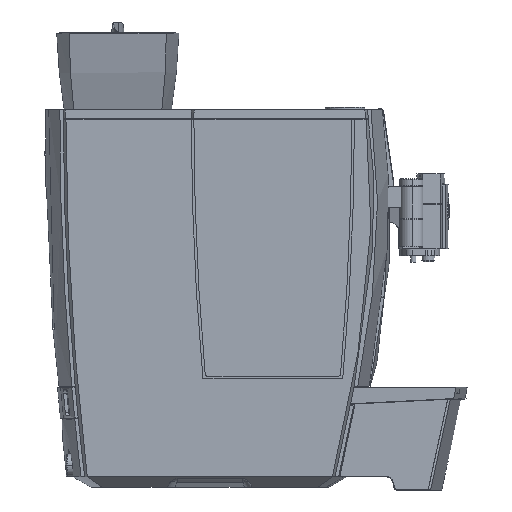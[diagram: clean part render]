
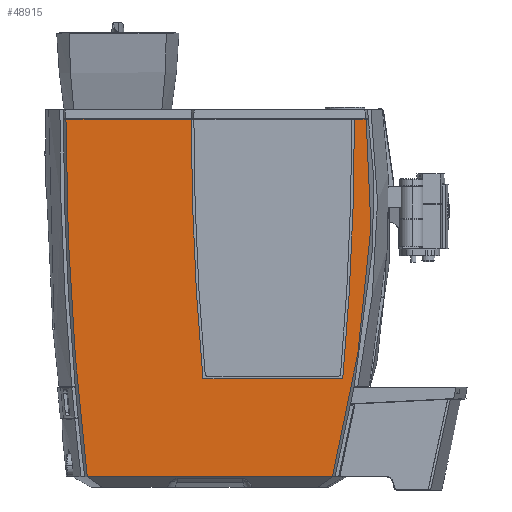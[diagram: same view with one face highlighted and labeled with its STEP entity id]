
A CAD part, left-side view. The second image highlights one B-rep face of the part: STEP entity #48915.
In plain terms, the highlighted planar face has unit normal (-1, 0, 0).
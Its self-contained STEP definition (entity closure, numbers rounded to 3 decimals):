
#1477 = B_SPLINE_CURVE_WITH_KNOTS ( 'NONE', 3,
 ( #59600, #65113, #10396, #48761, #15877, #54294, #21390, #59837, #26902, #65346, #32478, #70880, #37965, #5094, #43510, #10639, #48985, #16105, #54546, #21631, #60072, #27146, #65587, #32707, #71111, #38205, #5341, #43749 ),
 .UNSPECIFIED., .F., .F.,
 ( 4, 2, 2, 2, 2, 2, 2, 2, 2, 2, 2, 2, 2, 4 ),
 ( -0.316, -0.264, -0.237, -0.224, -0.211, -0.184, -0.171, -0.158, -0.105, -0.052, -0.025, -0.012, 0.001, 0.107 ),
 .UNSPECIFIED. ) ;
#3005 = CARTESIAN_POINT ( 'NONE',  ( -160., 43.649, 349. ) ) ;
#4015 = CARTESIAN_POINT ( 'NONE',  ( -160., 221.215, 45. ) ) ;
#4568 = AXIS2_PLACEMENT_3D ( 'NONE', #44443, #11573, #49920 ) ;
#5094 = CARTESIAN_POINT ( 'NONE',  ( -160., 25.335, 199.497 ) ) ;
#5230 = ORIENTED_EDGE ( 'NONE', *, *, #45469, .T. ) ;
#5341 = CARTESIAN_POINT ( 'NONE',  ( -160., 62.262, -35.432 ) ) ;
#5905 = VECTOR ( 'NONE', #9029, 1000. ) ;
#6641 = DIRECTION ( 'NONE',  ( 0., -1., 0. ) ) ;
#6969 = ORIENTED_EDGE ( 'NONE', *, *, #27799, .F. ) ;
#7218 = EDGE_CURVE ( 'NONE', #21376, #27360, #21009, .T. ) ;
#7604 = CARTESIAN_POINT ( 'NONE',  ( -160., 145., 349. ) ) ;
#9029 = DIRECTION ( 'NONE',  ( 0., -1., 0. ) ) ;
#10396 = CARTESIAN_POINT ( 'NONE',  ( -160., 25.968, 313.897 ) ) ;
#10639 = CARTESIAN_POINT ( 'NONE',  ( -160., 26.969, 173.056 ) ) ;
#11573 = DIRECTION ( 'NONE',  ( 1., 0., 0. ) ) ;
#13726 = CIRCLE ( 'NONE', #49836, 3528.26 ) ;
#14395 = CIRCLE ( 'NONE', #4568, 3381.513 ) ;
#14501 = CARTESIAN_POINT ( 'NONE',  ( -160., -150., -70. ) ) ;
#15877 = CARTESIAN_POINT ( 'NONE',  ( -160., 24.103, 278.744 ) ) ;
#16105 = CARTESIAN_POINT ( 'NONE',  ( -160., 32.503, 120.483 ) ) ;
#17430 = DIRECTION ( 'NONE',  ( 1., 0., 0. ) ) ;
#20004 = VERTEX_POINT ( 'NONE', #4015 ) ;
#21009 = CIRCLE ( 'NONE', #29012, 3381.513 ) ;
#21234 = ORIENTED_EDGE ( 'NONE', *, *, #54083, .T. ) ;
#21264 = EDGE_CURVE ( 'NONE', #21376, #46004, #61557, .T. ) ;
#21376 = VERTEX_POINT ( 'NONE', #3005 ) ;
#21390 = CARTESIAN_POINT ( 'NONE',  ( -160., 23.801, 261.149 ) ) ;
#21631 = CARTESIAN_POINT ( 'NONE',  ( -160., 39.235, 76.963 ) ) ;
#21793 = CARTESIAN_POINT ( 'NONE',  ( -160., 3425.161, 349. ) ) ;
#23983 = VERTEX_POINT ( 'NONE', #69784 ) ;
#25081 = FACE_OUTER_BOUND ( 'NONE', #32175, .T. ) ;
#26783 = ORIENTED_EDGE ( 'NONE', *, *, #52599, .F. ) ;
#26902 = CARTESIAN_POINT ( 'NONE',  ( -160., 23.823, 247.947 ) ) ;
#26976 = VECTOR ( 'NONE', #55544, 1000. ) ;
#27146 = CARTESIAN_POINT ( 'NONE',  ( -160., 43.258, 55.293 ) ) ;
#27304 = DIRECTION ( 'NONE',  ( 0., 0., -1. ) ) ;
#27360 = VERTEX_POINT ( 'NONE', #60865 ) ;
#27799 = EDGE_CURVE ( 'NONE', #46004, #42365, #1477, .T. ) ;
#27877 = ORIENTED_EDGE ( 'NONE', *, *, #21264, .F. ) ;
#28464 = CARTESIAN_POINT ( 'NONE',  ( -160., 29.934, 349. ) ) ;
#28675 = ORIENTED_EDGE ( 'NONE', *, *, #7218, .T. ) ;
#29012 = AXIS2_PLACEMENT_3D ( 'NONE', #21793, #60237, #27304 ) ;
#29921 = LINE ( 'NONE', #14501, #5905 ) ;
#32175 = EDGE_LOOP ( 'NONE', ( #26783, #21234, #6969, #27877, #28675, #61296, #5230, #58147 ) ) ;
#32478 = CARTESIAN_POINT ( 'NONE',  ( -160., 24.204, 225.933 ) ) ;
#32707 = CARTESIAN_POINT ( 'NONE',  ( -160., 45.875, 42.319 ) ) ;
#32756 = AXIS2_PLACEMENT_3D ( 'NONE', #33776, #39506, #6641 ) ;
#33776 = CARTESIAN_POINT ( 'NONE',  ( -160., -150., 1095.044 ) ) ;
#37776 = EDGE_CURVE ( 'NONE', #58621, #63979, #43348, .T. ) ;
#37965 = CARTESIAN_POINT ( 'NONE',  ( -160., 24.893, 208.311 ) ) ;
#38205 = CARTESIAN_POINT ( 'NONE',  ( -160., 54.98, -0.876 ) ) ;
#39506 = DIRECTION ( 'NONE',  ( 1., 0., 0. ) ) ;
#40473 = CARTESIAN_POINT ( 'NONE',  ( -160., 234.908, 349. ) ) ;
#42365 = VERTEX_POINT ( 'NONE', #58171 ) ;
#43348 = LINE ( 'NONE', #44493, #26976 ) ;
#43510 = CARTESIAN_POINT ( 'NONE',  ( -160., 25.584, 195.088 ) ) ;
#43749 = CARTESIAN_POINT ( 'NONE',  ( -160., 69.49, -70. ) ) ;
#44443 = CARTESIAN_POINT ( 'NONE',  ( -160., -3146.605, 349. ) ) ;
#44493 = CARTESIAN_POINT ( 'NONE',  ( -160., 145., 349. ) ) ;
#45469 = EDGE_CURVE ( 'NONE', #20004, #63979, #14395, .T. ) ;
#45528 = DIRECTION ( 'NONE',  ( 0., -1., 0. ) ) ;
#46004 = VERTEX_POINT ( 'NONE', #28464 ) ;
#48116 = LINE ( 'NONE', #65506, #61030 ) ;
#48661 = VECTOR ( 'NONE', #45528, 1000. ) ;
#48761 = CARTESIAN_POINT ( 'NONE',  ( -160., 24.443, 287.535 ) ) ;
#48915 = ADVANCED_FACE ( 'NONE', ( #25081 ), #66903, .F. ) ;
#48985 = CARTESIAN_POINT ( 'NONE',  ( -160., 28.521, 155.492 ) ) ;
#49836 = AXIS2_PLACEMENT_3D ( 'NONE', #50309, #17430, #55866 ) ;
#49920 = DIRECTION ( 'NONE',  ( 0., 0., -1. ) ) ;
#50309 = CARTESIAN_POINT ( 'NONE',  ( -160., -3146.5, 349. ) ) ;
#52405 = EDGE_CURVE ( 'NONE', #27360, #20004, #48116, .T. ) ;
#52599 = EDGE_CURVE ( 'NONE', #23983, #58621, #13726, .T. ) ;
#54083 = EDGE_CURVE ( 'NONE', #23983, #42365, #29921, .T. ) ;
#54294 = CARTESIAN_POINT ( 'NONE',  ( -160., 23.845, 265.549 ) ) ;
#54546 = CARTESIAN_POINT ( 'NONE',  ( -160., 34.933, 103.039 ) ) ;
#55544 = DIRECTION ( 'NONE',  ( 0., -1., 0. ) ) ;
#55866 = DIRECTION ( 'NONE',  ( 0., 0., -1. ) ) ;
#58147 = ORIENTED_EDGE ( 'NONE', *, *, #37776, .F. ) ;
#58171 = CARTESIAN_POINT ( 'NONE',  ( -160., 69.49, -70. ) ) ;
#58621 = VERTEX_POINT ( 'NONE', #60035 ) ;
#59600 = CARTESIAN_POINT ( 'NONE',  ( -160., 29.934, 349. ) ) ;
#59837 = CARTESIAN_POINT ( 'NONE',  ( -160., 23.797, 252.348 ) ) ;
#60035 = CARTESIAN_POINT ( 'NONE',  ( -160., 381.76, 349. ) ) ;
#60072 = CARTESIAN_POINT ( 'NONE',  ( -160., 40.779, 68.286 ) ) ;
#60237 = DIRECTION ( 'NONE',  ( 1., 0., 0. ) ) ;
#60865 = CARTESIAN_POINT ( 'NONE',  ( -160., 57.341, 45. ) ) ;
#61030 = VECTOR ( 'NONE', #71024, 1000. ) ;
#61296 = ORIENTED_EDGE ( 'NONE', *, *, #52405, .T. ) ;
#61557 = LINE ( 'NONE', #7604, #48661 ) ;
#63979 = VERTEX_POINT ( 'NONE', #40473 ) ;
#65113 = CARTESIAN_POINT ( 'NONE',  ( -160., 27.654, 331.452 ) ) ;
#65346 = CARTESIAN_POINT ( 'NONE',  ( -160., 23.985, 234.74 ) ) ;
#65506 = CARTESIAN_POINT ( 'NONE',  ( -160., -150., 45. ) ) ;
#65587 = CARTESIAN_POINT ( 'NONE',  ( -160., 44.112, 50.966 ) ) ;
#66903 = PLANE ( 'NONE',  #32756 ) ;
#69784 = CARTESIAN_POINT ( 'NONE',  ( -160., 356.792, -70. ) ) ;
#70880 = CARTESIAN_POINT ( 'NONE',  ( -160., 24.7, 212.717 ) ) ;
#71024 = DIRECTION ( 'NONE',  ( 0., 1., 0. ) ) ;
#71111 = CARTESIAN_POINT ( 'NONE',  ( -160., 46.791, 38. ) ) ;
